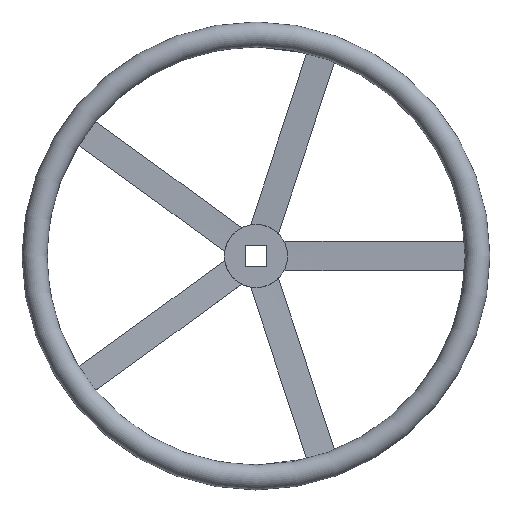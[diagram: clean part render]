
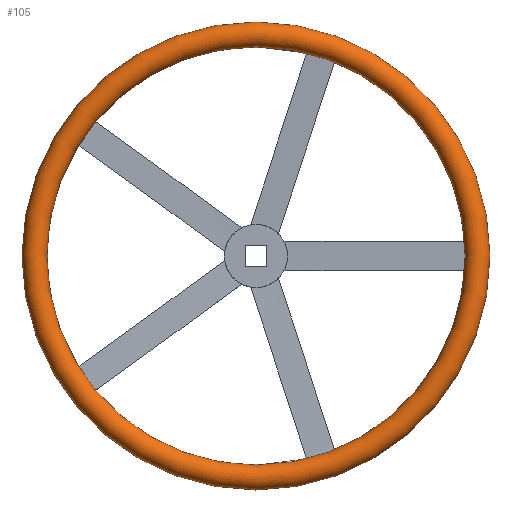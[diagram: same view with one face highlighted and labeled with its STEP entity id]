
A CAD part, top view. The second image highlights one B-rep face of the part: STEP entity #105.
In plain terms, the highlighted toroidal (fillet/blend) face has major radius 378.75 mm and minor radius 21.25 mm.
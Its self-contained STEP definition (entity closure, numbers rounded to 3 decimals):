
#105 = ADVANCED_FACE( '', ( #182, #183 ), #184, .T. );
#182 = FACE_OUTER_BOUND( '', #268, .T. );
#183 = FACE_OUTER_BOUND( '', #269, .T. );
#184 = TOROIDAL_SURFACE( '', #270, 378.75, 21.25 );
#268 = EDGE_LOOP( '', ( #535 ) );
#269 = EDGE_LOOP( '', ( #536 ) );
#270 = AXIS2_PLACEMENT_3D( '', #537, #538, #539 );
#535 = ORIENTED_EDGE( '', *, *, #642, .T. );
#536 = ORIENTED_EDGE( '', *, *, #641, .F. );
#537 = CARTESIAN_POINT( '', ( 0., 0., 53.75 ) );
#538 = DIRECTION( '', ( 0., 0., 1. ) );
#539 = DIRECTION( '', ( 1., 0., 0. ) );
#641 = EDGE_CURVE( '', #779, #779, #780, .T. );
#642 = EDGE_CURVE( '', #781, #781, #782, .T. );
#779 = VERTEX_POINT( '', #1174 );
#780 = CIRCLE( '', #1175, 357.5 );
#781 = VERTEX_POINT( '', #1176 );
#782 = CIRCLE( '', #1177, 400. );
#1174 = CARTESIAN_POINT( '', ( 357.5, 0., 53.75 ) );
#1175 = AXIS2_PLACEMENT_3D( '', #1303, #1304, #1305 );
#1176 = CARTESIAN_POINT( '', ( 400., 0., 53.75 ) );
#1177 = AXIS2_PLACEMENT_3D( '', #1306, #1307, #1308 );
#1303 = CARTESIAN_POINT( '', ( 0., 0., 53.75 ) );
#1304 = DIRECTION( '', ( 0., 0., 1. ) );
#1305 = DIRECTION( '', ( 1., 0., 0. ) );
#1306 = CARTESIAN_POINT( '', ( 0., 0., 53.75 ) );
#1307 = DIRECTION( '', ( 0., 0., 1. ) );
#1308 = DIRECTION( '', ( 1., 0., 0. ) );
